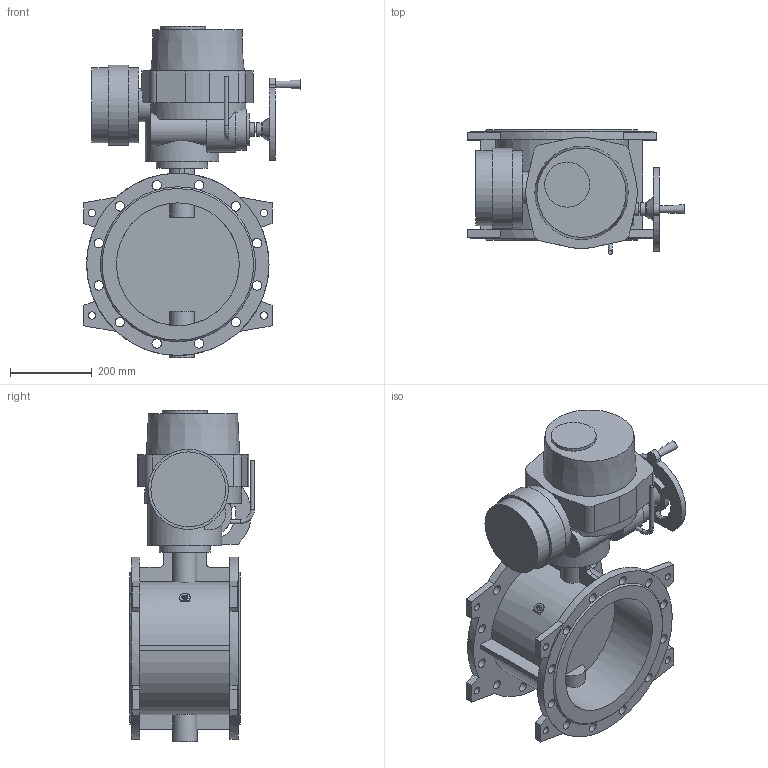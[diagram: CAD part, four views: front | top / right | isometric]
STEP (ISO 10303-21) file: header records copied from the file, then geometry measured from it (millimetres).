
FILE_DESCRIPTION(('STEP AP203'), '1');
FILE_NAME('Çàòâîð 023F.Z DN300 PN10 + ýëåêòðîïðèâîä QT.A080', '', ('UNSPECIFIED'), ('UNSPECIFIED'), 'ASCON STEP Converter 1.6', 'ASCON Math Kernel', '');
FILE_SCHEMA(('CONFIG_CONTROL_DESIGN'));
Length unit declared in the file: millimetre
Bounding box: 529 x 305 x 809 mm (x, y, z)
Volume: 28008482.9 mm3; surface area: 1715406.7 mm2
Topology: 1 solids, 1 shells, 240 faces, 677 edges, 447 vertices
Faces by surface type: plane 133, cylinder 101, cone 5, torus 1
Full cylindrical faces by diameter (mm): 10 x6, 12 x4, 14 x4, 16 x1, 18 x8, 23 x24, 32 x2, 35 x1, 60 x1, 80 x2, 100 x1, 110 x1, 125 x1, 180 x1, 183 x2, 196 x1, 300 x2, 445 x2
Entity records: 12258 total; most frequent: CARTESIAN_POINT 4046, DIRECTION 1329, ORIENTED_EDGE 1214, EDGE_CURVE 607, AXIS2_PLACEMENT_3D 533, VERTEX_POINT 447, EDGE_LOOP 388, CIRCLE 292
